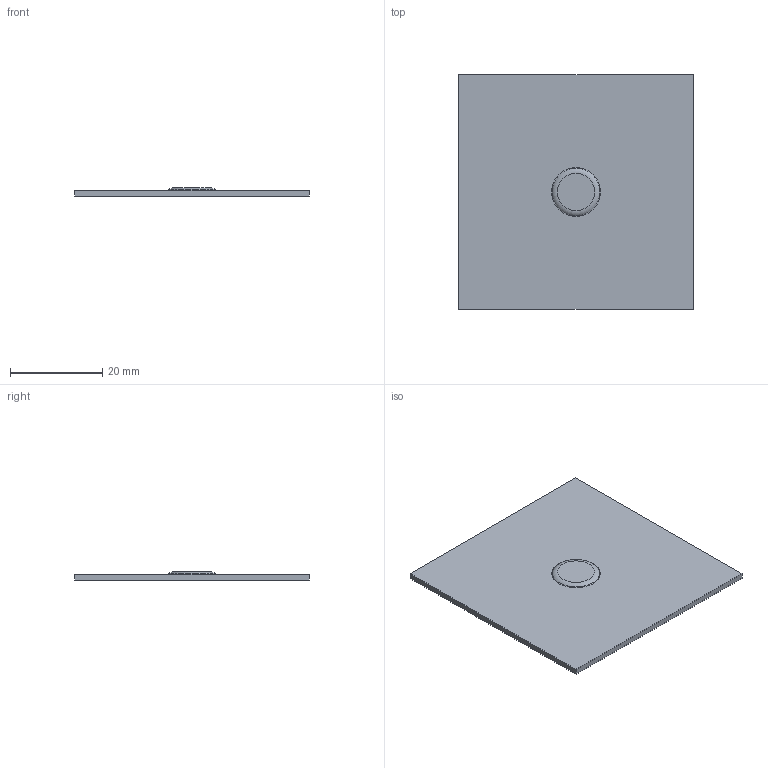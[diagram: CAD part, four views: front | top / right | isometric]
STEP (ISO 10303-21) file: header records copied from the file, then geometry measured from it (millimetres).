
FILE_DESCRIPTION((''),'1');
FILE_NAME('C:/Users/robertnolte/Desktop/WT#795046-10.stp','2012-03-30T01:22:05',(''),(''),'Spatial Interop R21 SP3','Kubotek KeyCreator 2011 V10.5.0 (24766)',' ');
FILE_SCHEMA(('CONFIG_CONTROL_DESIGN'));
Length unit declared in the file: inch
Products named in the file (1): 1
Bounding box: 50.8 x 50.8 x 1.78 mm (x, y, z)
Volume: 3282.4 mm3; surface area: 5427.2 mm2
Topology: 1 solids, 1 shells, 12 faces, 24 edges, 16 vertices
Faces by surface type: plane 8, torus 4
Entity records: 340 total; most frequent: DIRECTION 54, CARTESIAN_POINT 49, ORIENTED_EDGE 40, AXIS2_PLACEMENT_3D 21, EDGE_CURVE 20, EDGE_LOOP 18, VERTEX_POINT 16, ADVANCED_FACE 12
